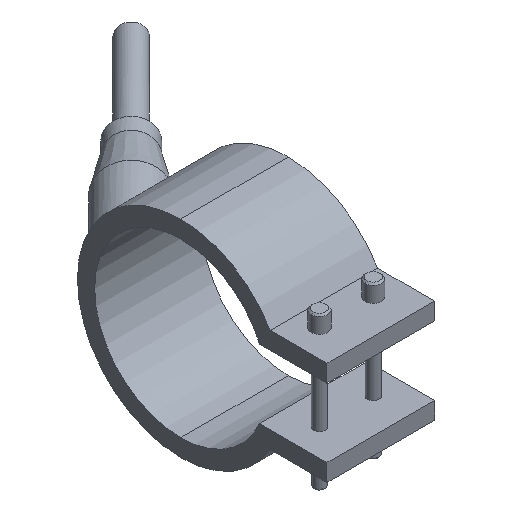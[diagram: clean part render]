
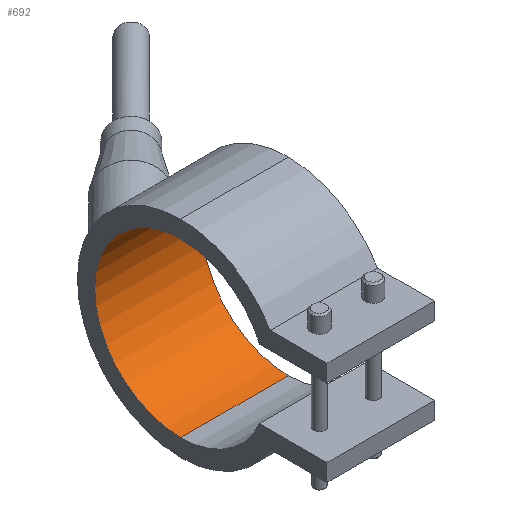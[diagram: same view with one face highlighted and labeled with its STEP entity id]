
A CAD part, isometric view. The second image highlights one B-rep face of the part: STEP entity #692.
In plain terms, the highlighted cylindrical face has radius 20 mm (diameter 40 mm), a partial arc.
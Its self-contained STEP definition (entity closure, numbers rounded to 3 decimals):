
#362=CARTESIAN_POINT('Vertex',(12.5,0.,20.)) ;
#367=CARTESIAN_POINT('Axis2P3D Location',(12.5,0.,0.)) ;
#371=CARTESIAN_POINT('Vertex',(12.5,0.,-20.)) ;
#478=CARTESIAN_POINT('Vertex',(-12.5,0.,-20.)) ;
#481=CARTESIAN_POINT('Axis2P3D Location',(-12.5,0.,0.)) ;
#485=CARTESIAN_POINT('Vertex',(-12.5,0.,20.)) ;
#664=CARTESIAN_POINT('Line Origine',(12.5,0.,20.)) ;
#676=CARTESIAN_POINT('Axis2P3D Location',(12.5,0.,0.)) ;
#681=CARTESIAN_POINT('Line Origine',(12.5,0.,-20.)) ;
#368=DIRECTION('Axis2P3D Direction',(1.,0.,0.)) ;
#482=DIRECTION('Axis2P3D Direction',(1.,0.,0.)) ;
#665=DIRECTION('Vector Direction',(1.,0.,0.)) ;
#677=DIRECTION('Axis2P3D Direction',(1.,0.,-0.)) ;
#678=DIRECTION('Axis2P3D XDirection',(0.,0.,-1.)) ;
#682=DIRECTION('Vector Direction',(1.,0.,0.)) ;
#369=AXIS2_PLACEMENT_3D('Circle Axis2P3D',#367,#368,$) ;
#483=AXIS2_PLACEMENT_3D('Circle Axis2P3D',#481,#482,$) ;
#679=AXIS2_PLACEMENT_3D('Cylinder Axis2P3D',#676,#677,#678) ;
#687=ORIENTED_EDGE('',*,*,#373,.T.) ;
#688=ORIENTED_EDGE('',*,*,#668,.T.) ;
#689=ORIENTED_EDGE('',*,*,#487,.F.) ;
#690=ORIENTED_EDGE('',*,*,#685,.T.) ;
#666=VECTOR('Line Direction',#665,1.) ;
#683=VECTOR('Line Direction',#682,1.) ;
#692=ADVANCED_FACE('29040025',(#691),#680,.F.) ;
#370=CIRCLE('generated circle',#369,20.) ;
#484=CIRCLE('generated circle',#483,20.) ;
#680=CYLINDRICAL_SURFACE('generated cylinder',#679,20.) ;
#373=EDGE_CURVE('',#372,#363,#370,.T.) ;
#487=EDGE_CURVE('',#479,#486,#484,.T.) ;
#668=EDGE_CURVE('',#363,#486,#667,.F.) ;
#685=EDGE_CURVE('',#479,#372,#684,.T.) ;
#686=EDGE_LOOP('',(#687,#688,#689,#690)) ;
#691=FACE_OUTER_BOUND('',#686,.T.) ;
#667=LINE('Line',#664,#666) ;
#684=LINE('Line',#681,#683) ;
#363=VERTEX_POINT('',#362) ;
#372=VERTEX_POINT('',#371) ;
#479=VERTEX_POINT('',#478) ;
#486=VERTEX_POINT('',#485) ;
